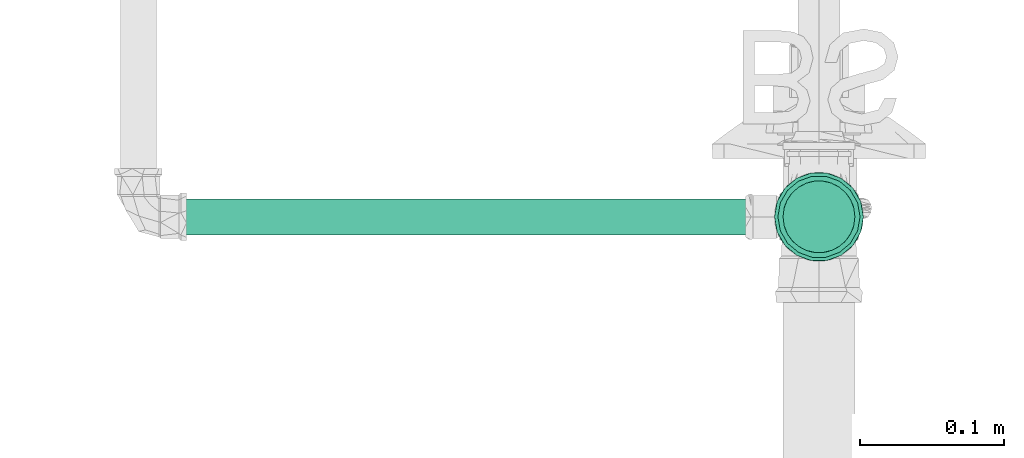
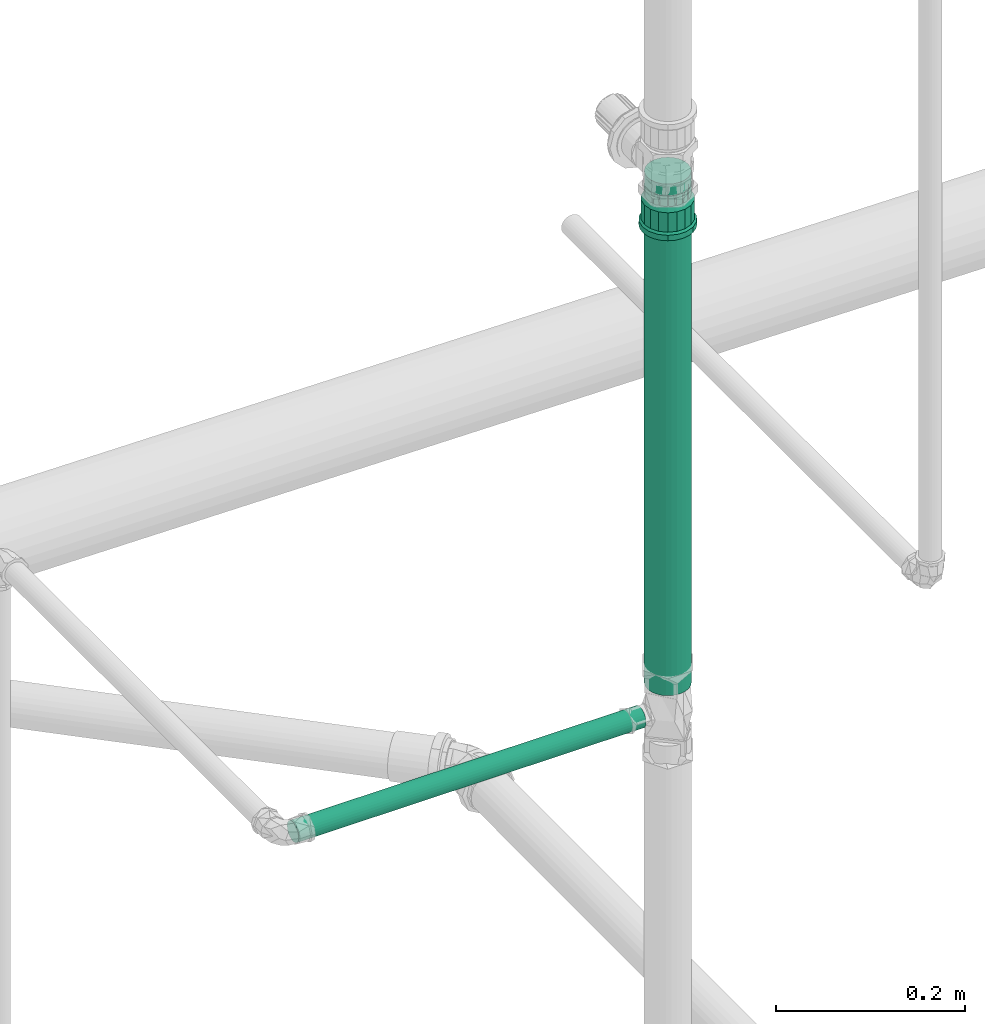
# One storey, part 207 of 589: 2 flow segments, 1 flow fitting.
"""IFC2X3 building model written with IfcOpenShell, lengths in millimetres."""

from ifc_helpers import new_model, entity, si_unit, converted_unit, derived_unit, direction, frame, frame_2d, origin, origin_2d_with_axis, place, context, subcontext, project, spatial, circle, extrude, faceted_brep, source, transform, mapped, material, type_object, type_shapes, element, save


model = new_model("IFC2X3")

# Units and contexts
model_context = context("Model", 3, precision=0.01, world=origin(), true_north=direction((6.123031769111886e-17, 1.0)))
body_context = subcontext(model_context, "Body", "Model", "MODEL_VIEW")
ifc_project = project(units=[si_unit("LENGTHUNIT", "METRE", prefix="MILLI"), si_unit("AREAUNIT", "SQUARE_METRE"), si_unit("VOLUMEUNIT", "CUBIC_METRE"), converted_unit("PLANEANGLEUNIT", "DEGREE", entity("IfcRatioMeasure", 0.017453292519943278), si_unit("PLANEANGLEUNIT", "RADIAN"), dimensions=[0, 0, 0, 0, 0, 0, 0]), si_unit("MASSUNIT", "GRAM", prefix="KILO"), derived_unit("MASSDENSITYUNIT", [(si_unit("MASSUNIT", "GRAM", prefix="KILO"), 1), (si_unit("LENGTHUNIT", "METRE"), -3)]), derived_unit("IONCONCENTRATIONUNIT", [(si_unit("MASSUNIT", "GRAM", prefix="KILO"), 1), (si_unit("LENGTHUNIT", "METRE"), -3)]), derived_unit("MOMENTOFINERTIAUNIT", [(si_unit("LENGTHUNIT", "METRE"), 4)]), si_unit("TIMEUNIT", "SECOND"), si_unit("FREQUENCYUNIT", "HERTZ"), si_unit("THERMODYNAMICTEMPERATUREUNIT", "DEGREE_CELSIUS"), derived_unit("THERMALTRANSMITTANCEUNIT", [(si_unit("MASSUNIT", "GRAM", prefix="KILO"), 1), (si_unit("THERMODYNAMICTEMPERATUREUNIT", "KELVIN"), -1), (si_unit("TIMEUNIT", "SECOND"), -3)]), derived_unit("THERMALCONDUCTANCEUNIT", [(si_unit("MASSUNIT", "GRAM", prefix="KILO"), 1), (si_unit("THERMODYNAMICTEMPERATUREUNIT", "KELVIN"), -1), (si_unit("TIMEUNIT", "SECOND"), -3), (si_unit("LENGTHUNIT", "METRE"), 1)]), derived_unit("VOLUMETRICFLOWRATEUNIT", [(si_unit("LENGTHUNIT", "METRE"), 3), (si_unit("TIMEUNIT", "SECOND"), -1)]), derived_unit("MASSFLOWRATEUNIT", [(si_unit("MASSUNIT", "GRAM", prefix="KILO"), 1), (si_unit("TIMEUNIT", "SECOND"), -1)]), derived_unit("ROTATIONALFREQUENCYUNIT", [(si_unit("TIMEUNIT", "SECOND"), -1)]), si_unit("ELECTRICCURRENTUNIT", "AMPERE"), si_unit("ELECTRICVOLTAGEUNIT", "VOLT"), si_unit("POWERUNIT", "WATT"), si_unit("FORCEUNIT", "NEWTON", prefix="KILO"), si_unit("ILLUMINANCEUNIT", "LUX"), si_unit("LUMINOUSFLUXUNIT", "LUMEN"), si_unit("LUMINOUSINTENSITYUNIT", "CANDELA"), derived_unit("USERDEFINED", [(si_unit("MASSUNIT", "GRAM", prefix="KILO"), -1), (si_unit("LENGTHUNIT", "METRE"), -2), (si_unit("TIMEUNIT", "SECOND"), 3), (si_unit("LUMINOUSFLUXUNIT", "LUMEN"), 1)]), derived_unit("USERDEFINED", [(si_unit("MASSUNIT", "GRAM", prefix="KILO"), 1), (si_unit("TIMEUNIT", "SECOND"), -3), (si_unit("LENGTHUNIT", "METRE"), 3), (si_unit("ELECTRICCURRENTUNIT", "AMPERE"), -2)]), derived_unit("SOUNDPOWERUNIT", [(si_unit("MASSUNIT", "GRAM", prefix="KILO"), 1), (si_unit("TIMEUNIT", "SECOND"), -3), (si_unit("LENGTHUNIT", "METRE"), 2)]), derived_unit("SOUNDPRESSUREUNIT", [(si_unit("MASSUNIT", "GRAM", prefix="KILO"), 1), (si_unit("LENGTHUNIT", "METRE"), -1), (si_unit("TIMEUNIT", "SECOND"), -2)]), derived_unit("LINEARVELOCITYUNIT", [(si_unit("LENGTHUNIT", "METRE"), 1), (si_unit("TIMEUNIT", "SECOND"), -1)]), si_unit("PRESSUREUNIT", "PASCAL"), derived_unit("USERDEFINED", [(si_unit("MASSUNIT", "GRAM", prefix="KILO"), 1), (si_unit("LENGTHUNIT", "METRE"), -2), (si_unit("TIMEUNIT", "SECOND"), -2)]), derived_unit("LINEARFORCEUNIT", [(si_unit("MASSUNIT", "GRAM", prefix="KILO"), 1), (si_unit("TIMEUNIT", "SECOND"), -2)]), derived_unit("PLANARFORCEUNIT", [(si_unit("MASSUNIT", "GRAM", prefix="KILO"), 1), (si_unit("LENGTHUNIT", "METRE"), -1), (si_unit("TIMEUNIT", "SECOND"), -2)]), derived_unit("SPECIFICHEATCAPACITYUNIT", [(si_unit("THERMODYNAMICTEMPERATUREUNIT", "KELVIN"), -1), (si_unit("LENGTHUNIT", "METRE"), 2), (si_unit("TIMEUNIT", "SECOND"), -2)]), derived_unit("HEATINGVALUEUNIT", [(si_unit("LENGTHUNIT", "METRE"), 2), (si_unit("TIMEUNIT", "SECOND"), -2)]), derived_unit("VAPORPERMEABILITYUNIT", [(si_unit("LENGTHUNIT", "METRE"), -1), (si_unit("TIMEUNIT", "SECOND"), 1)]), derived_unit("DYNAMICVISCOSITYUNIT", [(si_unit("MASSUNIT", "GRAM", prefix="KILO"), 1), (si_unit("TIMEUNIT", "SECOND"), -1), (si_unit("LENGTHUNIT", "METRE"), -1)]), derived_unit("THERMALEXPANSIONCOEFFICIENTUNIT", [(si_unit("THERMODYNAMICTEMPERATUREUNIT", "KELVIN"), -1)]), derived_unit("MODULUSOFELASTICITYUNIT", [(si_unit("MASSUNIT", "GRAM", prefix="KILO"), 1), (si_unit("LENGTHUNIT", "METRE"), -1), (si_unit("TIMEUNIT", "SECOND"), -2)]), derived_unit("ISOTHERMALMOISTURECAPACITYUNIT", [(si_unit("LENGTHUNIT", "METRE"), 3), (si_unit("MASSUNIT", "GRAM", prefix="KILO"), -1)]), derived_unit("MOISTUREDIFFUSIVITYUNIT", [(si_unit("TIMEUNIT", "SECOND"), -1), (si_unit("LENGTHUNIT", "METRE"), 2)])], contexts=[model_context])

# Site, building, storey
site_placement = place(None, origin())
site = spatial("IfcSite", under=ifc_project, at=site_placement, Name="Default", CompositionType="ELEMENT")
building_placement = place(site_placement, origin())
building = spatial("IfcBuilding", under=site, at=building_placement, CompositionType="ELEMENT")
storey_placement = place(building_placement, frame((0.0, 0.0, 100.0)))
storey = spatial("IfcBuildingStorey", under=building, at=storey_placement, Name="TÉRREO", CompositionType="ELEMENT", Elevation=100.0)

# Flow segments
pipe_segment_type = type_object("IfcPipeSegmentType", Name="Tipos de tubos:PVC Marrom Soldável", PredefinedType="NOTDEFINED")
flow_segment_1_placement = place(storey_placement, origin())
element("IfcFlowSegment", 1, at=flow_segment_1_placement, inside=storey, type_object=pipe_segment_type, Name="Tipos de tubos:PVC Marrom Soldável", ObjectType="Tipos de tubos:PVC Marrom Soldável", context=body_context, shape_type="SweptSolid", body=[
    extrude(circle(Radius=25.0, at=origin_2d_with_axis()), frame((10616.154026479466, -477.46117215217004, 1532.599970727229), z_axis=(0.0, 0.0, 1.0), x_axis=(-1.0, 0.0, 0.0)), (0.0, 0.0, 1.0), 645.9000292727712),
])
flow_segment_2_placement = place(storey_placement, origin())
element("IfcFlowSegment", 2, at=flow_segment_2_placement, inside=storey, type_object=pipe_segment_type, Name="Tipos de tubos:PVC Marrom Soldável", ObjectType="Tipos de tubos:PVC Marrom Soldável", context=body_context, shape_type="SweptSolid", body=[
    extrude(circle(Radius=12.5, at=frame_2d((5.414335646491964e-13, 2.707167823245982e-13), x_axis=(1.0, 0.0))), frame((10157.825329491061, -477.4611721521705, 1499.9999707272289), z_axis=(1.0, 0.0, 0.0), x_axis=(0.0, 1.0, 0.0)), (0.0, 0.0, 1.0), 424.6286969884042),
])

# Flow fitting
ifc_material = material(Name="PVC Marrom")
pipe_fitting_type = type_object("IfcPipeFittingType", Name="PVC Marrom Soldável_Adaptador Curto com Bolsa e Rosca Aninhado_Rodrigo MEP:Adaptador", PredefinedType="NOTDEFINED", material=ifc_material)
shared_shape = source(origin(), body_context, "Body", "Brep", [
    faceted_brep([(0.0, -15.475000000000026, -26.803486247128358), (0.0, -21.884954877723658, -21.88495487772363), (0.0, -12.499999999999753, -21.65063509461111), (0.0, -6.470476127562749, -24.14814565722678), (0.0, -8.010449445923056, -29.895404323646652), (0.0, -17.677669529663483, -17.6776695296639), (0.0, -26.803486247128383, -15.474999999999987), (0.0, -21.650635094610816, -12.500000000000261), (0.0, -24.148145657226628, -6.470476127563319), (0.0, -29.895404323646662, -8.01044944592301), (0.0, -25.0, 0.0), (0.0, -30.95, 0.0), (0.0, -24.14814565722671, 6.470476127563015), (0.0, -29.895404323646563, 8.010449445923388), (0.0, -21.65063509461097, 12.499999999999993), (0.0, -26.80348624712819, 15.475000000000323), (0.0, -17.6776695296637, 17.677669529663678), (0.0, -21.884954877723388, 21.884954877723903), (0.0, -12.500000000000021, 21.65063509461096), (0.0, -15.474999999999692, 26.803486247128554), (0.0, -6.4704761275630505, 24.1481456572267), (0.0, -8.010449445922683, 29.89540432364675), (0.0, 0.0, 25.0), (0.0, 0.0, 30.95), (0.0, 6.4704761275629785, 24.14814565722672), (0.0, 8.010449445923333, 29.895404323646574), (0.0, 12.49999999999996, 21.650635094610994), (0.0, 15.475000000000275, 26.803486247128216), (0.0, 17.677669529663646, 17.67766952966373), (0.0, 21.884954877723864, 21.884954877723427), (0.0, 21.65063509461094, 12.500000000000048), (0.0, 26.803486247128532, 15.474999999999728), (0.0, 29.89540432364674, 8.010449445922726), (0.0, 24.14814565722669, 6.4704761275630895), (0.0, 30.95, 0.0), (0.0, 25.0, 0.0), (0.0, 29.895404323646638, -8.010449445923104), (0.0, 24.148145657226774, -6.470476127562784), (0.0, 26.803486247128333, -15.475000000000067), (0.0, 21.6506350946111, -12.499999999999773), (0.0, 21.884954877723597, -21.884954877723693), (0.0, 17.677669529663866, -17.67766952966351), (0.0, 15.474999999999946, -26.803486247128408), (0.0, 12.500000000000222, -21.650635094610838), (0.0, 8.010449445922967, -29.895404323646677), (0.0, 6.470476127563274, -24.148145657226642), (0.0, 0.0, -30.95), (0.0, 0.0, -25.0), (7.0, 29.083191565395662, 10.586334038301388), (7.0, 29.880651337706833, 6.064083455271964), (7.0, 30.016595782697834, 5.29316701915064), (7.0, 19.590362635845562, 23.350189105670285), (7.0, 23.70796650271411, 19.895598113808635), (7.0, 26.395579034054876, 15.24096607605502), (7.0, 10.421885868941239, 28.6425895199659), (7.0, 5.3710129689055, 30.480398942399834), (7.0, 30.95, 0.0), (7.0, 15.472758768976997, 26.804780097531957), (7.0, -15.479482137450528, 26.80089798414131), (7.0, -10.42907040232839, 28.639974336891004), (7.0, -5.37865866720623, 30.479050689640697), (7.0, -23.712956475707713, 19.889650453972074), (7.0, -19.596219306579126, 23.345274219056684), (7.0, -30.95, 0.0), (7.0, -29.08584618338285, 10.57903832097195), (7.0, -26.39940132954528, 15.234344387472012), (7.0, -0.0038228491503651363, 30.47972481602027), (7.0, -29.08584618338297, -10.579038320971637), (7.0, -19.596219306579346, -23.3452742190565), (7.0, -23.71295647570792, -19.88965045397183), (7.0, -26.39940132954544, -15.234344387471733), (7.0, -10.429070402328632, -28.639974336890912), (7.0, -5.378658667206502, -30.47905068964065), (7.0, -15.47948213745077, -26.800897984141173), (7.0, 30.0165957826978, -5.2931670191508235), (7.0, 15.472758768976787, -26.804780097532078), (7.0, 10.421885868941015, -28.642589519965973), (7.0, 5.3710129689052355, -30.480398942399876), (7.0, 23.707966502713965, -19.895598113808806), (7.0, 19.590362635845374, -23.350189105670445), (7.0, 29.88065131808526, -6.064083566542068), (7.0, 29.083191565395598, -10.58633403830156), (7.0, 26.395579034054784, -15.240966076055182), (7.0, -0.003822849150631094, -30.479724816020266), (34.4499999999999, 26.875116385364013, 9.782030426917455), (9.400000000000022, 27.737468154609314, 4.8912625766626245), (9.400000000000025, 26.87493630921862, 9.782525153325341), (9.400000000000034, 14.297928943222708, 24.769522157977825), (34.4499999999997, 14.299296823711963, 24.768732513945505), (9.40000000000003, 18.102887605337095, 21.577234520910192), (34.4499999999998, 21.908523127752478, 18.384140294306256), (34.44999999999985, 24.391819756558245, 14.083085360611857), (9.400000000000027, 24.391391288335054, 14.083736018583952), (9.400000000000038, 9.63056335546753, 26.467788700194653), (9.400000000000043, 4.963197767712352, 28.16605524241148), (34.44999999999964, 4.965271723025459, 28.165689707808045), (9.400000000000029, 21.907846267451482, 18.384946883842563), (34.44999999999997, 27.796398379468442, 4.557325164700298), (9.40000000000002, 28.600000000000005, 0.0), (34.44999999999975, 18.103909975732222, 21.57643640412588), (34.44999999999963, -0.0011994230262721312, 28.165478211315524), (9.400000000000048, -0.0035325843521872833, 28.165432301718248), (34.44999999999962, -4.967670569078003, 28.165266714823), (34.44999999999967, 9.632284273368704, 26.46721111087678), (9.400000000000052, -4.970262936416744, 28.164809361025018), (9.40000000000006, -14.304141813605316, 24.765934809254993), (34.449999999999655, -14.301406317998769, 24.76751455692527), (9.400000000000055, -9.63720237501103, 26.465372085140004), (34.449999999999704, -18.105747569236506, 21.574894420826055), (34.44999999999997, 27.73755819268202, 4.891015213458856), (9.400000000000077, -26.87738936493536, 9.77578339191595), (34.450000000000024, -28.600000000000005, 0.0), (34.449999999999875, -26.875949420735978, 9.779741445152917), (9.400000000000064, -18.108299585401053, 21.57269281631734), (9.40000000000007, -21.91245735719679, 18.379450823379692), (34.449999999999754, -21.910088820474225, 18.38227428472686), (34.44999999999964, -9.634538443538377, 26.466390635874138), (9.400000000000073, -24.394923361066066, 14.077617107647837), (34.450000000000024, 28.600000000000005, 0.0), (9.40000000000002, -28.600000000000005, 0.0), (34.44999999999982, -24.3930191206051, 14.081007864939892), (34.45000000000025, -26.87594942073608, -9.77974144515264), (9.40000000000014, -26.87738936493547, -9.77578339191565), (34.45000000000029, 18.103909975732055, -21.576436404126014), (34.45000000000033, 14.299296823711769, -24.76873251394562), (9.400000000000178, 18.10288760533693, -21.577234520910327), (34.450000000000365, -21.910088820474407, -18.38227428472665), (9.400000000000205, -21.912457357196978, -18.37945082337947), (9.400000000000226, -18.108299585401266, -21.57269281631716), (34.45000000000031, -24.393019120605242, -14.081007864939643), (9.400000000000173, -24.394923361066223, -14.077617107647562), (9.40000000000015, 21.907846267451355, -18.384946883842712), (9.40000000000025, -0.0035325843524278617, -28.165432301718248), (9.400000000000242, 4.963197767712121, -28.166055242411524), (34.45000000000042, -0.0011994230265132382, -28.165478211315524), (34.45000000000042, -14.301406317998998, -24.76751455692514), (9.400000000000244, -14.304141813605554, -24.765934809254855), (9.40000000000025, -9.637202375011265, -26.46537208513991), (34.45000000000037, 9.632284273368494, -26.467211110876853), (34.45000000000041, 4.965271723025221, -28.165689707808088), (9.400000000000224, 9.63056335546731, -26.467788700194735), (9.400000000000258, -4.970262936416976, -28.164809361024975), (34.45000000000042, -9.634538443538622, -26.46639063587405), (34.45000000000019, 24.391819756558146, -14.083085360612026), (9.40000000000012, 24.391391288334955, -14.083736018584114), (9.400000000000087, 26.874936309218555, -9.782525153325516), (34.450000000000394, -18.1057475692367, -21.574894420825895), (34.450000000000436, -4.967670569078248, -28.16526671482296), (34.45000000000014, 26.875116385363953, -9.782030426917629), (34.450000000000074, 27.796398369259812, -4.557325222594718), (9.400000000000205, 14.297928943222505, -24.769522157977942), (9.400000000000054, 27.737468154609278, -4.8912625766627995), (34.450000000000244, 21.908523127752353, -18.38414029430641), (34.45000000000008, 27.737558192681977, -4.891015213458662), (69.0, 0.0, -25.0), (69.0, 6.4704761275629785, -24.14814565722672), (69.0, 12.49999999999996, -21.650635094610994), (69.0, 17.677669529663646, -17.67766952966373), (69.0, 21.650635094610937, -12.500000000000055), (69.0, 24.14814565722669, -6.4704761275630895), (69.0, 25.0, 0.0), (69.0, 24.148145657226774, 6.470476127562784), (69.0, 21.650635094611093, 12.499999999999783), (69.0, 17.67766952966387, 17.677669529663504), (69.0, 12.500000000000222, 21.650635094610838), (69.0, 6.470476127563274, 24.148145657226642), (69.0, 0.0, 25.0), (69.0, -6.470476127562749, 24.14814565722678), (69.0, -12.499999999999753, 21.65063509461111), (69.0, -17.677669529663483, 17.6776695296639), (69.0, -21.650635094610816, 12.500000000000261), (69.0, -24.148145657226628, 6.470476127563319), (69.0, -25.0, 0.0), (69.0, -24.14814565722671, -6.470476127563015), (69.0, -21.650635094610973, -12.499999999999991), (69.0, -17.6776695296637, -17.677669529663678), (69.0, -12.500000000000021, -21.65063509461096), (69.0, -6.4704761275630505, -24.1481456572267), (40.499999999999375, 8.41832461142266, 23.136178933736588), (40.49999999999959, 19.1502152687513, 16.070757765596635), (40.49999999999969, 21.321146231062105, 12.310958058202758), (40.49999999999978, 23.492077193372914, 8.551158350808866), (40.49999999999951, 15.824202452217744, 18.861218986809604), (40.49999999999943, 12.498189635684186, 21.651680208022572), (40.49999999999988, 24.246038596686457, 4.275579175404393), (40.49999999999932, 4.3384595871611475, 24.620677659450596), (40.499999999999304, -0.003087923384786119, 24.620133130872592), (40.499999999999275, -4.344635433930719, 24.61958860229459), (40.49999999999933, -12.503620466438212, 21.648544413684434), (40.49999999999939, -15.828933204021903, 18.85724896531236), (40.49999999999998, 25.0, 0.0), (40.49999999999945, -19.154245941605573, 16.065953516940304), (40.49999999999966, -23.494221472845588, 8.545265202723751), (40.499999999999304, -8.424127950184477, 23.13406650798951), (40.49999999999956, -21.324233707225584, 12.305609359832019), (40.49999999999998, -25.0, 0.0), (40.500000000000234, -19.15424594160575, -16.065953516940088), (40.50000000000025, 12.498189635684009, -21.65168020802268), (40.500000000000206, 15.824202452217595, -18.861218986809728), (40.500000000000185, -21.32423370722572, -12.305609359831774), (40.50000000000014, -23.494221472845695, -8.545265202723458), (40.50000000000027, -15.82893320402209, -18.8572489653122), (40.5000000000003, -12.503620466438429, -21.64854441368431), (40.50000000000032, -8.42412795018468, -23.13406650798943), (40.50000000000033, -4.344635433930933, -24.619588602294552), (40.50000000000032, -0.00308792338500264, -24.620133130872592), (40.5000000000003, 4.3384595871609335, -24.62067765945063), (40.50000000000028, 8.41832461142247, -23.136178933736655), (40.50000000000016, 19.150215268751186, -16.070757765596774), (40.50000000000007, 23.49207719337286, -8.551158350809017), (40.500000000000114, 21.321146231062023, -12.31095805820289), (40.50000000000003, 24.246038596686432, -4.275579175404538), (9.40000000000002, 24.14814565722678, -6.470476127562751), (34.450000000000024, 24.14814565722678, -6.470476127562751), (34.450000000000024, 25.0, 0.0), (9.40000000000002, 25.0, 0.0), (7.0, 25.0, 0.0), (7.0, 24.14814565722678, -6.470476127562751), (9.40000000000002, 21.650635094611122, -12.499999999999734), (34.450000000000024, 21.650635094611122, -12.499999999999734), (7.0, 21.650635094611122, -12.499999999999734), (34.450000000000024, 12.500000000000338, -21.65063509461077), (34.450000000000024, 17.677669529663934, -17.677669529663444), (9.40000000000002, 17.677669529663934, -17.677669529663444), (7.0, 17.677669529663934, -17.677669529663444), (7.0, 12.500000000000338, -21.65063509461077), (9.40000000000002, 12.500000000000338, -21.65063509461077), (34.450000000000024, 6.470476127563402, -24.148145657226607), (7.0, 6.470476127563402, -24.148145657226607), (9.40000000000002, 6.470476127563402, -24.148145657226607), (34.450000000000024, 0.0, -25.0), (7.0, 0.0, -25.0), (9.40000000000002, 0.0, -25.0), (9.40000000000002, -6.470476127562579, -24.148145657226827), (34.450000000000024, -6.470476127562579, -24.148145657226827), (7.0, -6.470476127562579, -24.148145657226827), (9.40000000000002, -12.49999999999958, -21.65063509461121), (34.450000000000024, -12.49999999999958, -21.65063509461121), (7.0, -12.49999999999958, -21.65063509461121), (9.40000000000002, -24.148145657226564, -6.470476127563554), (7.0, -24.14814565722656, -6.470476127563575), (7.0, -25.0, 0.0), (9.40000000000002, -25.0, 0.0), (34.450000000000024, -25.0, 0.0), (34.450000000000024, -24.148145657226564, -6.470476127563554), (9.40000000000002, -17.677669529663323, -17.677669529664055), (34.450000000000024, -17.677669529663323, -17.677669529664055), (7.0, -17.677669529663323, -17.677669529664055), (9.40000000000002, -21.650635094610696, -12.500000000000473), (34.450000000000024, -21.650635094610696, -12.500000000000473), (7.0, -21.650635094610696, -12.500000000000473), (9.40000000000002, -24.148145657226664, 6.470476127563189), (34.450000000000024, -24.148145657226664, 6.470476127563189), (7.0, -24.148145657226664, 6.470476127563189), (9.40000000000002, -21.65063509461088, 12.50000000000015), (34.450000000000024, -21.65063509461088, 12.50000000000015), (7.0, -21.65063509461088, 12.50000000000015), (34.450000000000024, -12.49999999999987, 21.650635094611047), (34.450000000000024, -17.677669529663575, 17.677669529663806), (9.40000000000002, -17.677669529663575, 17.677669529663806), (7.0, -17.677669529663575, 17.677669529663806), (7.0, -12.49999999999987, 21.650635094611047), (9.40000000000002, -12.49999999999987, 21.650635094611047), (34.450000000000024, -6.470476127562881, 24.14814565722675), (7.0, -6.470476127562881, 24.14814565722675), (9.40000000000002, -6.470476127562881, 24.14814565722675), (34.450000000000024, 0.0, 25.0), (7.0, 0.0, 25.0), (9.40000000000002, 0.0, 25.0), (34.450000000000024, 12.50000000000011, 21.650635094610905), (9.40000000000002, 12.50000000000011, 21.650635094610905), (7.0, 12.50000000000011, 21.650635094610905), (7.0, 17.677669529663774, 17.677669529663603), (9.40000000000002, 17.677669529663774, 17.677669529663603), (34.450000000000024, 17.677669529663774, 17.677669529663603), (34.450000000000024, 21.650635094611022, 12.499999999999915), (9.40000000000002, 21.650635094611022, 12.499999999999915), (7.0, 21.650635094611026, 12.499999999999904), (7.0, 24.14814565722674, 6.470476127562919), (9.40000000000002, 24.14814565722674, 6.470476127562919), (34.450000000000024, 24.14814565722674, 6.470476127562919), (34.450000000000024, 6.470476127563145, 24.148145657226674), (9.40000000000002, 6.470476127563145, 24.148145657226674), (7.0, 6.470476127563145, 24.148145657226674)], [[[0, 1, 2]], [[0, 2, 3]], [[3, 4, 0]], [[2, 1, 5]], [[6, 5, 1]], [[7, 5, 6]], [[8, 7, 6]], [[8, 6, 9]], [[8, 9, 10]], [[10, 9, 11]], [[12, 10, 11]], [[12, 11, 13]], [[14, 12, 13]], [[14, 13, 15]], [[16, 14, 15]], [[15, 17, 16]], [[17, 18, 16]], [[18, 17, 19]], [[18, 19, 20]], [[21, 20, 19]], [[20, 21, 22]], [[22, 21, 23]], [[23, 24, 22]], [[24, 23, 25]], [[24, 25, 26]], [[27, 26, 25]], [[27, 28, 26]], [[27, 29, 28]], [[30, 28, 29]], [[31, 30, 29]], [[32, 30, 31]], [[33, 30, 32]], [[33, 32, 34]], [[34, 35, 33]], [[36, 35, 34]], [[36, 37, 35]], [[37, 36, 38]], [[39, 37, 38]], [[39, 38, 40]], [[39, 40, 41]], [[40, 42, 41]], [[41, 42, 43]], [[43, 42, 44]], [[44, 45, 43]], [[46, 45, 44]], [[4, 47, 46]], [[46, 47, 45]], [[4, 3, 47]], [[32, 48, 49, 50]], [[51, 52, 29]], [[53, 48, 31, 52]], [[54, 25, 55]], [[48, 32, 31]], [[34, 50, 56]], [[27, 57, 51]], [[29, 27, 51]], [[29, 52, 31]], [[19, 58, 59]], [[21, 19, 59]], [[54, 57, 27]], [[25, 54, 27]], [[55, 25, 23]], [[32, 50, 34]], [[59, 60, 21]], [[61, 62, 17]], [[63, 64, 13]], [[65, 61, 15, 64]], [[11, 63, 13]], [[17, 62, 19]], [[66, 55, 23, 60]], [[21, 60, 23]], [[61, 17, 15]], [[19, 62, 58]], [[13, 64, 15]], [[67, 63, 9]], [[68, 69, 1]], [[70, 67, 6, 69]], [[71, 4, 72]], [[67, 9, 6]], [[63, 11, 9]], [[4, 71, 0]], [[0, 73, 68]], [[1, 69, 6]], [[36, 34, 74]], [[42, 75, 76]], [[71, 73, 0]], [[44, 42, 76]], [[72, 4, 46]], [[1, 0, 68]], [[76, 77, 44]], [[78, 79, 40]], [[36, 74, 80, 81]], [[82, 78, 38, 81]], [[36, 81, 38]], [[40, 79, 42]], [[83, 72, 46, 77]], [[44, 77, 46]], [[78, 40, 38]], [[42, 79, 75]], [[34, 56, 74]], [[84, 85, 86]], [[87, 88, 89]], [[90, 91, 92]], [[93, 94, 95]], [[92, 96, 90]], [[97, 98, 85]], [[96, 89, 99]], [[84, 86, 91]], [[100, 101, 102]], [[103, 93, 95]], [[93, 103, 87]], [[92, 91, 86]], [[101, 104, 102]], [[99, 89, 88]], [[105, 106, 107]], [[106, 105, 108]], [[85, 84, 109, 97]], [[95, 94, 100]], [[110, 111, 112]], [[113, 114, 115]], [[102, 104, 116]], [[112, 117, 110]], [[108, 113, 115]], [[107, 116, 104]], [[97, 118, 98]], [[108, 105, 113]], [[111, 110, 119]], [[90, 96, 99]], [[120, 114, 117]], [[120, 117, 112]], [[88, 87, 103]], [[94, 101, 100]], [[115, 114, 120]], [[116, 107, 106]], [[121, 111, 122]], [[123, 124, 125]], [[126, 127, 128]], [[129, 121, 130]], [[125, 131, 123]], [[121, 122, 130]], [[132, 133, 134]], [[135, 136, 137]], [[138, 139, 140]], [[122, 111, 119]], [[130, 127, 129]], [[137, 141, 142]], [[143, 144, 145]], [[146, 126, 128]], [[134, 147, 132]], [[142, 135, 137]], [[133, 139, 134]], [[139, 133, 140]], [[146, 136, 135]], [[148, 143, 145]], [[142, 141, 147]], [[98, 118, 149]], [[124, 150, 125]], [[138, 150, 124]], [[145, 151, 148]], [[128, 136, 146]], [[131, 144, 152]], [[151, 149, 153, 148]], [[143, 152, 144]], [[123, 131, 152]], [[132, 147, 141]], [[151, 98, 149]], [[129, 127, 126]], [[140, 150, 138]], [[154, 155, 156, 157, 158, 159, 160, 161, 162, 163, 164, 165, 166, 167, 168, 169, 170, 171, 172, 173, 174, 175, 176, 177]], [[165, 164, 178]], [[179, 163, 162]], [[180, 179, 162, 181]], [[164, 182, 183]], [[184, 181, 161]], [[178, 185, 165]], [[182, 163, 179]], [[186, 187, 166, 185]], [[165, 185, 166]], [[163, 182, 164]], [[168, 188, 189]], [[161, 160, 184]], [[160, 190, 184]], [[169, 191, 170]], [[161, 181, 162]], [[192, 171, 170]], [[167, 193, 168]], [[194, 192, 170, 191]], [[172, 171, 195]], [[187, 193, 167]], [[167, 166, 187]], [[168, 193, 188]], [[169, 168, 189]], [[189, 191, 169]], [[192, 195, 171]], [[164, 183, 178]], [[173, 172, 195]], [[196, 175, 174]], [[156, 197, 198]], [[199, 196, 174, 200]], [[176, 201, 202]], [[173, 195, 200]], [[203, 204, 177]], [[201, 175, 196]], [[205, 206, 154, 204]], [[157, 156, 198]], [[175, 201, 176]], [[176, 202, 203]], [[207, 197, 156]], [[173, 200, 174]], [[177, 176, 203]], [[157, 208, 158]], [[209, 159, 158]], [[210, 209, 158, 208]], [[211, 190, 160]], [[155, 154, 206]], [[155, 206, 207]], [[155, 207, 156]], [[198, 208, 157]], [[159, 209, 211]], [[159, 211, 160]], [[177, 204, 154]], [[212, 213, 214, 215, 216, 35, 37, 217]], [[218, 219, 213, 212, 217, 37, 39, 220]], [[221, 222, 223, 224, 41, 43, 225, 226]], [[218, 220, 39, 41, 224, 223, 222, 219]], [[227, 221, 226, 225, 43, 45, 228, 229]], [[230, 227, 229, 228, 45, 47, 231, 232]], [[233, 234, 230, 232, 231, 47, 3, 235]], [[236, 237, 234, 233, 235, 3, 2, 238]], [[239, 240, 8, 10, 241, 242, 243, 244]], [[245, 246, 237, 236, 238, 2, 5, 247]], [[248, 249, 246, 245, 247, 5, 7, 250]], [[248, 250, 7, 8, 240, 239, 244, 249]], [[251, 252, 243, 242, 241, 10, 12, 253]], [[254, 255, 252, 251, 253, 12, 14, 256]], [[257, 258, 259, 260, 16, 18, 261, 262]], [[254, 256, 14, 16, 260, 259, 258, 255]], [[263, 257, 262, 261, 18, 20, 264, 265]], [[266, 263, 265, 264, 20, 22, 267, 268]], [[269, 270, 271, 26, 28, 272, 273, 274]], [[275, 276, 277, 30, 33, 278, 279, 280]], [[273, 272, 28, 30, 277, 276, 275, 274]], [[280, 279, 278, 33, 35, 216, 215, 214]], [[281, 282, 283, 24, 26, 271, 270, 269]], [[282, 281, 266, 268, 267, 22, 24, 283]], [[122, 119, 63, 67]], [[151, 145, 81, 80, 74, 56, 98]], [[71, 72, 141, 137, 136, 73]], [[83, 77, 133, 132, 141, 72]], [[136, 128, 127, 69, 68, 73]], [[130, 122, 67, 70, 69, 127]], [[76, 75, 150, 140, 133, 77]], [[82, 81, 145, 144, 131, 78]], [[131, 125, 150, 75, 79, 78]], [[85, 98, 56, 50, 49, 48, 86]], [[92, 86, 48, 53, 52, 96]], [[89, 96, 52, 51, 57, 87]], [[57, 54, 55, 94, 93, 87]], [[66, 60, 104, 101, 94, 55]], [[58, 105, 107, 104, 60, 59]], [[63, 119, 110, 64]], [[61, 65, 64, 110, 117, 114]], [[58, 62, 61, 114, 113, 105]], [[221, 227, 230, 234, 237, 246, 249, 244, 243, 252, 255, 258, 257, 263, 266, 281, 269, 274, 275, 280, 214, 213, 219, 222]], [[190, 118, 97, 109]], [[109, 84, 184]], [[184, 84, 181]], [[178, 95, 185]], [[183, 88, 103]], [[179, 90, 99]], [[182, 88, 183]], [[181, 84, 91]], [[178, 183, 103]], [[103, 95, 178]], [[186, 185, 100]], [[91, 90, 180]], [[100, 102, 186]], [[180, 181, 91]], [[99, 88, 182]], [[182, 179, 99]], [[102, 187, 186]], [[189, 115, 191]], [[187, 102, 116]], [[180, 90, 179]], [[100, 185, 95]], [[193, 106, 188]], [[111, 195, 192]], [[191, 115, 120]], [[194, 112, 192]], [[188, 106, 108]], [[194, 191, 120]], [[120, 112, 194]], [[184, 190, 109]], [[108, 115, 189]], [[112, 111, 192]], [[189, 188, 108]], [[116, 106, 193]], [[193, 187, 116]], [[111, 200, 195]], [[203, 142, 204]], [[201, 146, 202]], [[199, 129, 196]], [[142, 147, 204]], [[146, 135, 202]], [[205, 134, 206]], [[129, 126, 196]], [[196, 126, 201]], [[121, 200, 111]], [[121, 129, 199]], [[201, 126, 146]], [[206, 139, 207]], [[204, 147, 205]], [[135, 142, 203]], [[200, 121, 199]], [[134, 139, 206]], [[202, 135, 203]], [[138, 124, 197]], [[207, 138, 197]], [[211, 153, 190]], [[210, 143, 209]], [[190, 153, 149, 118]], [[143, 148, 209]], [[198, 123, 208]], [[123, 152, 208]], [[208, 152, 210]], [[138, 207, 139]], [[198, 124, 123]], [[152, 143, 210]], [[148, 153, 211]], [[197, 124, 198]], [[147, 134, 205]], [[209, 148, 211]]]),
])
type_shapes(pipe_fitting_type, [shared_shape])
flow_fitting_placement = place(storey_placement, frame((10616.154026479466, -477.4611721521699, 2125.0), z_axis=(0.0, 1.0, 0.0), x_axis=(0.0, 0.0, 1.0)))
element("IfcFlowFitting", 3, at=flow_fitting_placement, inside=storey, type_object=pipe_fitting_type, material=ifc_material, Name="PVC Marrom Soldável_Adaptador Curto com Bolsa e Rosca Aninhado_Rodrigo MEP:Adaptador", ObjectType="PVC Marrom Soldável_Adaptador Curto com Bolsa e Rosca Aninhado_Rodrigo MEP:Adaptador", context=body_context, shape_type="MappedRepresentation", body=[
    mapped(shared_shape, transform((0.0, 0.0, 0.0), scale=1.0)),
])

save(model, "model.ifc")
